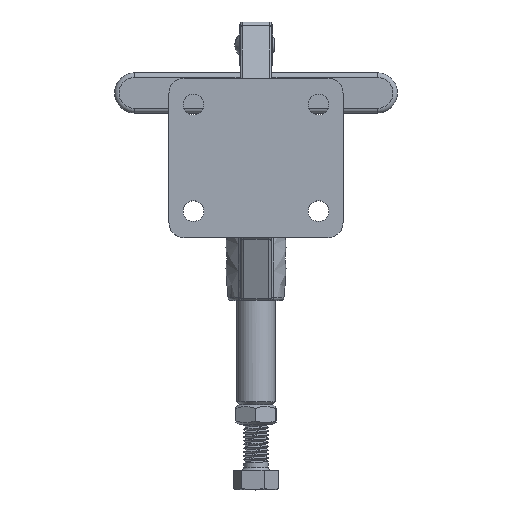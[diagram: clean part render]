
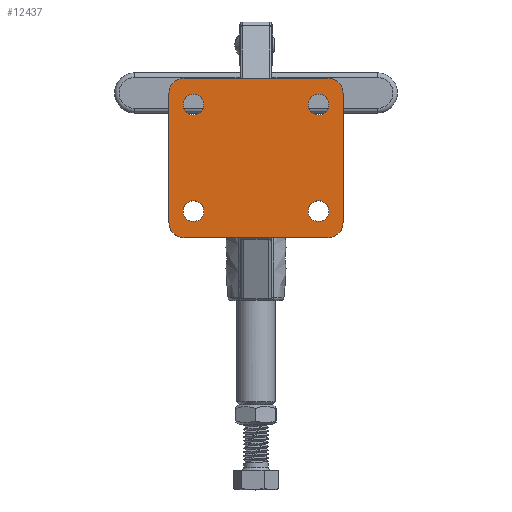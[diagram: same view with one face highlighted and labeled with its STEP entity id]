
A CAD part, top view. The second image highlights one B-rep face of the part: STEP entity #12437.
In plain terms, the highlighted planar face has unit normal (0, 0, 1).
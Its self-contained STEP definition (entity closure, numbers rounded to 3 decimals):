
#1004=FACE_BOUND('',#2535,.T.);
#1005=FACE_BOUND('',#2536,.T.);
#1006=FACE_BOUND('',#2537,.T.);
#1007=FACE_BOUND('',#2538,.T.);
#1240=PLANE('',#13297);
#1812=FACE_OUTER_BOUND('',#2534,.T.);
#2534=EDGE_LOOP('',(#10960,#10961,#10962,#10963,#10964,#10965,#10966,#10967));
#2535=EDGE_LOOP('',(#10968,#10969));
#2536=EDGE_LOOP('',(#10970,#10971));
#2537=EDGE_LOOP('',(#10972,#10973));
#2538=EDGE_LOOP('',(#10974,#10975));
#2871=CIRCLE('',#13248,3.4);
#2872=CIRCLE('',#13249,3.4);
#2875=CIRCLE('',#13253,3.4);
#2876=CIRCLE('',#13254,3.4);
#2879=CIRCLE('',#13258,3.4);
#2880=CIRCLE('',#13259,3.4);
#2883=CIRCLE('',#13263,3.4);
#2884=CIRCLE('',#13264,3.4);
#2904=CIRCLE('',#13298,5.);
#2905=CIRCLE('',#13299,5.);
#2906=CIRCLE('',#13300,5.);
#2907=CIRCLE('',#13301,5.);
#3809=LINE('',#43428,#4765);
#3819=LINE('',#43505,#4775);
#3820=LINE('',#43510,#4776);
#3821=LINE('',#43515,#4777);
#4765=VECTOR('',#15470,1000.);
#4775=VECTOR('',#15486,1000.);
#4776=VECTOR('',#15491,1000.);
#4777=VECTOR('',#15496,1000.);
#5867=VERTEX_POINT('',#43170);
#5868=VERTEX_POINT('',#43172);
#5871=VERTEX_POINT('',#43180);
#5872=VERTEX_POINT('',#43182);
#5875=VERTEX_POINT('',#43190);
#5876=VERTEX_POINT('',#43192);
#5879=VERTEX_POINT('',#43200);
#5880=VERTEX_POINT('',#43202);
#5945=VERTEX_POINT('',#43421);
#5948=VERTEX_POINT('',#43426);
#5957=VERTEX_POINT('',#43498);
#5960=VERTEX_POINT('',#43503);
#5961=VERTEX_POINT('',#43507);
#5962=VERTEX_POINT('',#43509);
#5963=VERTEX_POINT('',#43512);
#5964=VERTEX_POINT('',#43514);
#7577=EDGE_CURVE('',#5867,#5868,#2871,.T.);
#7578=EDGE_CURVE('',#5868,#5867,#2872,.T.);
#7582=EDGE_CURVE('',#5871,#5872,#2875,.T.);
#7583=EDGE_CURVE('',#5872,#5871,#2876,.T.);
#7587=EDGE_CURVE('',#5875,#5876,#2879,.T.);
#7588=EDGE_CURVE('',#5876,#5875,#2880,.T.);
#7592=EDGE_CURVE('',#5879,#5880,#2883,.T.);
#7593=EDGE_CURVE('',#5880,#5879,#2884,.T.);
#7666=EDGE_CURVE('',#5948,#5945,#3809,.T.);
#7680=EDGE_CURVE('',#5957,#5960,#3819,.T.);
#7681=EDGE_CURVE('',#5960,#5961,#2904,.T.);
#7682=EDGE_CURVE('',#5961,#5962,#3820,.T.);
#7683=EDGE_CURVE('',#5962,#5945,#2905,.T.);
#7684=EDGE_CURVE('',#5948,#5963,#2906,.T.);
#7685=EDGE_CURVE('',#5964,#5963,#3821,.T.);
#7686=EDGE_CURVE('',#5964,#5957,#2907,.T.);
#10960=ORIENTED_EDGE('',*,*,#7680,.T.);
#10961=ORIENTED_EDGE('',*,*,#7681,.T.);
#10962=ORIENTED_EDGE('',*,*,#7682,.T.);
#10963=ORIENTED_EDGE('',*,*,#7683,.T.);
#10964=ORIENTED_EDGE('',*,*,#7666,.F.);
#10965=ORIENTED_EDGE('',*,*,#7684,.T.);
#10966=ORIENTED_EDGE('',*,*,#7685,.F.);
#10967=ORIENTED_EDGE('',*,*,#7686,.T.);
#10968=ORIENTED_EDGE('',*,*,#7583,.F.);
#10969=ORIENTED_EDGE('',*,*,#7582,.F.);
#10970=ORIENTED_EDGE('',*,*,#7578,.F.);
#10971=ORIENTED_EDGE('',*,*,#7577,.F.);
#10972=ORIENTED_EDGE('',*,*,#7588,.F.);
#10973=ORIENTED_EDGE('',*,*,#7587,.F.);
#10974=ORIENTED_EDGE('',*,*,#7593,.F.);
#10975=ORIENTED_EDGE('',*,*,#7592,.F.);
#12437=ADVANCED_FACE('',(#1812,#1004,#1005,#1006,#1007),#1240,.F.);
#13248=AXIS2_PLACEMENT_3D('',#43173,#15328,#15329);
#13249=AXIS2_PLACEMENT_3D('',#43174,#15330,#15331);
#13253=AXIS2_PLACEMENT_3D('',#43183,#15339,#15340);
#13254=AXIS2_PLACEMENT_3D('',#43184,#15341,#15342);
#13258=AXIS2_PLACEMENT_3D('',#43193,#15350,#15351);
#13259=AXIS2_PLACEMENT_3D('',#43194,#15352,#15353);
#13263=AXIS2_PLACEMENT_3D('',#43203,#15361,#15362);
#13264=AXIS2_PLACEMENT_3D('',#43204,#15363,#15364);
#13297=AXIS2_PLACEMENT_3D('',#43506,#15487,#15488);
#13298=AXIS2_PLACEMENT_3D('',#43508,#15489,#15490);
#13299=AXIS2_PLACEMENT_3D('',#43511,#15492,#15493);
#13300=AXIS2_PLACEMENT_3D('',#43513,#15494,#15495);
#13301=AXIS2_PLACEMENT_3D('',#43516,#15497,#15498);
#15328=DIRECTION('center_axis',(0.,0.,1.));
#15329=DIRECTION('ref_axis',(1.,0.,0.));
#15330=DIRECTION('center_axis',(0.,0.,1.));
#15331=DIRECTION('ref_axis',(1.,0.,0.));
#15339=DIRECTION('center_axis',(0.,0.,1.));
#15340=DIRECTION('ref_axis',(-1.,0.,0.));
#15341=DIRECTION('center_axis',(0.,0.,1.));
#15342=DIRECTION('ref_axis',(-1.,0.,0.));
#15350=DIRECTION('center_axis',(0.,0.,1.));
#15351=DIRECTION('ref_axis',(-1.,0.,0.));
#15352=DIRECTION('center_axis',(0.,0.,1.));
#15353=DIRECTION('ref_axis',(-1.,0.,0.));
#15361=DIRECTION('center_axis',(0.,0.,1.));
#15362=DIRECTION('ref_axis',(1.,0.,0.));
#15363=DIRECTION('center_axis',(0.,0.,1.));
#15364=DIRECTION('ref_axis',(1.,0.,0.));
#15470=DIRECTION('',(0.,-1.,0.));
#15486=DIRECTION('',(0.,-1.,0.));
#15487=DIRECTION('center_axis',(0.,0.,-1.));
#15488=DIRECTION('ref_axis',(-1.,0.,0.));
#15489=DIRECTION('center_axis',(0.,0.,1.));
#15490=DIRECTION('ref_axis',(-1.,0.,0.));
#15491=DIRECTION('',(1.,0.,0.));
#15492=DIRECTION('center_axis',(0.,0.,1.));
#15493=DIRECTION('ref_axis',(-1.,0.,0.));
#15494=DIRECTION('center_axis',(0.,0.,1.));
#15495=DIRECTION('ref_axis',(-1.,0.,0.));
#15496=DIRECTION('',(1.,0.,0.));
#15497=DIRECTION('center_axis',(0.,0.,1.));
#15498=DIRECTION('ref_axis',(-1.,0.,0.));
#43170=CARTESIAN_POINT('',(17.15,43.7,0.));
#43172=CARTESIAN_POINT('',(23.95,43.7,0.));
#43173=CARTESIAN_POINT('Origin',(20.55,43.7,0.));
#43174=CARTESIAN_POINT('Origin',(20.55,43.7,0.));
#43180=CARTESIAN_POINT('',(-23.95,43.7,0.));
#43182=CARTESIAN_POINT('',(-17.15,43.7,0.));
#43183=CARTESIAN_POINT('Origin',(-20.55,43.7,0.));
#43184=CARTESIAN_POINT('Origin',(-20.55,43.7,0.));
#43190=CARTESIAN_POINT('',(17.15,8.7,0.));
#43192=CARTESIAN_POINT('',(23.95,8.7,0.));
#43193=CARTESIAN_POINT('Origin',(20.55,8.7,0.));
#43194=CARTESIAN_POINT('Origin',(20.55,8.7,0.));
#43200=CARTESIAN_POINT('',(-23.95,8.7,0.));
#43202=CARTESIAN_POINT('',(-17.15,8.7,0.));
#43203=CARTESIAN_POINT('Origin',(-20.55,8.7,0.));
#43204=CARTESIAN_POINT('Origin',(-20.55,8.7,0.));
#43421=CARTESIAN_POINT('',(28.6,5.,0.));
#43426=CARTESIAN_POINT('',(28.6,47.4,0.));
#43428=CARTESIAN_POINT('',(28.6,52.4,0.));
#43498=CARTESIAN_POINT('',(-28.6,47.4,0.));
#43503=CARTESIAN_POINT('',(-28.6,5.,0.));
#43505=CARTESIAN_POINT('',(-28.6,52.4,0.));
#43506=CARTESIAN_POINT('Origin',(-28.6,52.4,0.));
#43507=CARTESIAN_POINT('',(-23.6,0.,0.));
#43508=CARTESIAN_POINT('Origin',(-23.6,5.,0.));
#43509=CARTESIAN_POINT('',(23.6,0.,0.));
#43510=CARTESIAN_POINT('',(-28.6,0.,0.));
#43511=CARTESIAN_POINT('Origin',(23.6,5.,0.));
#43512=CARTESIAN_POINT('',(23.6,52.4,0.));
#43513=CARTESIAN_POINT('Origin',(23.6,47.4,0.));
#43514=CARTESIAN_POINT('',(-23.6,52.4,0.));
#43515=CARTESIAN_POINT('',(-28.6,52.4,0.));
#43516=CARTESIAN_POINT('Origin',(-23.6,47.4,0.));
